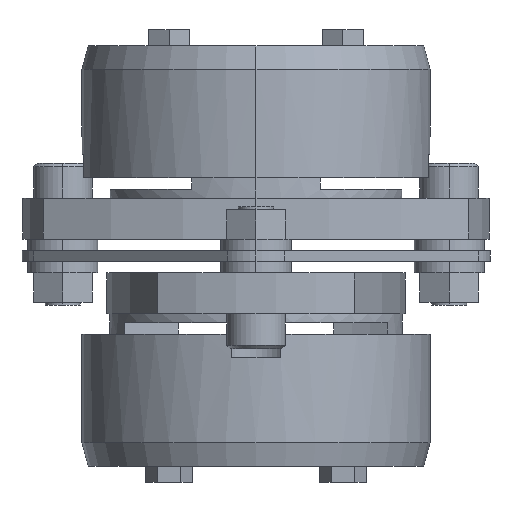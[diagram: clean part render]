
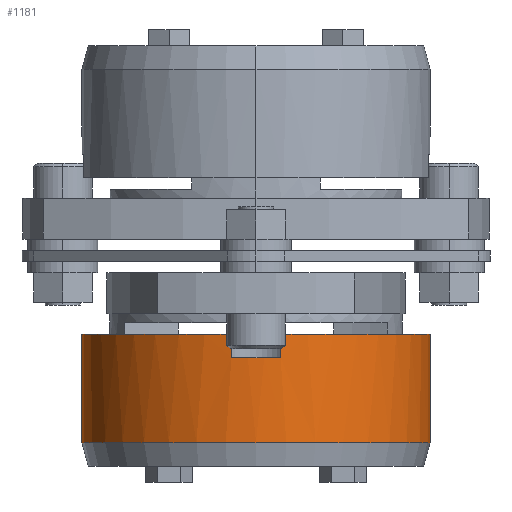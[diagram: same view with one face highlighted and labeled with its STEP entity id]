
A CAD part, left-side view. The second image highlights one B-rep face of the part: STEP entity #1181.
In plain terms, the highlighted cylindrical face has radius 29.75 mm (diameter 59.5 mm), a partial arc.
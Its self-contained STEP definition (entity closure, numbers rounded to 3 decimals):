
#1005=CARTESIAN_POINT('',(0.,29.75,-31.875));
#1006=VERTEX_POINT('',#1005);
#1022=CARTESIAN_POINT('',(0.,-29.75,-31.875));
#1023=VERTEX_POINT('',#1022);
#1030=CARTESIAN_POINT('',(0.,0.,-31.875));
#1031=DIRECTION('',(0.0,0.0,-1.0));
#1032=DIRECTION('',(0.0,1.0,0.0));
#1033=AXIS2_PLACEMENT_3D('',#1030,#1031,#1032);
#1034=CIRCLE('',#1033,29.75);
#1035=EDGE_CURVE('',#1023,#1006,#1034,.T.);
#1116=CARTESIAN_POINT('',(0.,0.,-13.375));
#1117=DIRECTION('',(0.0,0.0,-1.0));
#1118=DIRECTION('',(0.0,-1.0,0.0));
#1119=AXIS2_PLACEMENT_3D('',#1116,#1117,#1118);
#1120=CYLINDRICAL_SURFACE('',#1119,29.75);
#1121=CARTESIAN_POINT('',(0.,-29.75,-13.375));
#1122=VERTEX_POINT('',#1121);
#1123=CARTESIAN_POINT('',(0.,-29.75,-13.375));
#1124=DIRECTION('',(0.0,0.0,-1.0));
#1125=VECTOR('',#1124,18.5);
#1126=LINE('',#1123,#1125);
#1127=EDGE_CURVE('',#1122,#1023,#1126,.T.);
#1128=ORIENTED_EDGE('',*,*,#1127,.F.);
#1129=CARTESIAN_POINT('',(-29.452,-4.202,-13.375));
#1130=VERTEX_POINT('',#1129);
#1131=CARTESIAN_POINT('',(0.,0.,-13.375));
#1132=DIRECTION('',(0.0,0.0,-1.0));
#1133=DIRECTION('',(0.0,-1.0,0.0));
#1134=AXIS2_PLACEMENT_3D('',#1131,#1132,#1133);
#1135=CIRCLE('',#1134,29.75);
#1136=EDGE_CURVE('',#1122,#1130,#1135,.T.);
#1137=ORIENTED_EDGE('',*,*,#1136,.T.);
#1138=CARTESIAN_POINT('',(-29.452,-4.202,-17.375));
#1139=VERTEX_POINT('',#1138);
#1140=CARTESIAN_POINT('',(-29.452,-4.202,-13.375));
#1141=DIRECTION('',(0.0,0.0,-1.0));
#1142=VECTOR('',#1141,4.0);
#1143=LINE('',#1140,#1142);
#1144=EDGE_CURVE('',#1130,#1139,#1143,.T.);
#1145=ORIENTED_EDGE('',*,*,#1144,.T.);
#1146=CARTESIAN_POINT('',(-29.452,4.202,-17.375));
#1147=VERTEX_POINT('',#1146);
#1148=CARTESIAN_POINT('',(0.,0.,-17.375));
#1149=DIRECTION('',(0.0,0.0,-1.0));
#1150=DIRECTION('',(0.0,-1.0,0.0));
#1151=AXIS2_PLACEMENT_3D('',#1148,#1149,#1150);
#1152=CIRCLE('',#1151,29.75);
#1153=EDGE_CURVE('',#1139,#1147,#1152,.T.);
#1154=ORIENTED_EDGE('',*,*,#1153,.T.);
#1155=CARTESIAN_POINT('',(-29.452,4.202,-13.375));
#1156=VERTEX_POINT('',#1155);
#1157=CARTESIAN_POINT('',(-29.452,4.202,-17.375));
#1158=DIRECTION('',(0.0,0.0,1.0));
#1159=VECTOR('',#1158,4.0);
#1160=LINE('',#1157,#1159);
#1161=EDGE_CURVE('',#1147,#1156,#1160,.T.);
#1162=ORIENTED_EDGE('',*,*,#1161,.T.);
#1163=CARTESIAN_POINT('',(0.,29.75,-13.375));
#1164=VERTEX_POINT('',#1163);
#1165=CARTESIAN_POINT('',(0.,0.,-13.375));
#1166=DIRECTION('',(0.0,0.0,-1.0));
#1167=DIRECTION('',(0.0,-1.0,0.0));
#1168=AXIS2_PLACEMENT_3D('',#1165,#1166,#1167);
#1169=CIRCLE('',#1168,29.75);
#1170=EDGE_CURVE('',#1156,#1164,#1169,.T.);
#1171=ORIENTED_EDGE('',*,*,#1170,.T.);
#1172=CARTESIAN_POINT('',(0.,29.75,-31.875));
#1173=DIRECTION('',(0.0,0.0,1.0));
#1174=VECTOR('',#1173,18.5);
#1175=LINE('',#1172,#1174);
#1176=EDGE_CURVE('',#1006,#1164,#1175,.T.);
#1177=ORIENTED_EDGE('',*,*,#1176,.F.);
#1178=ORIENTED_EDGE('',*,*,#1035,.F.);
#1179=EDGE_LOOP('',(#1128,#1137,#1145,#1154,#1162,#1171,#1177,#1178));
#1180=FACE_OUTER_BOUND('',#1179,.T.);
#1181=ADVANCED_FACE('',(#1180),#1120,.T.);
